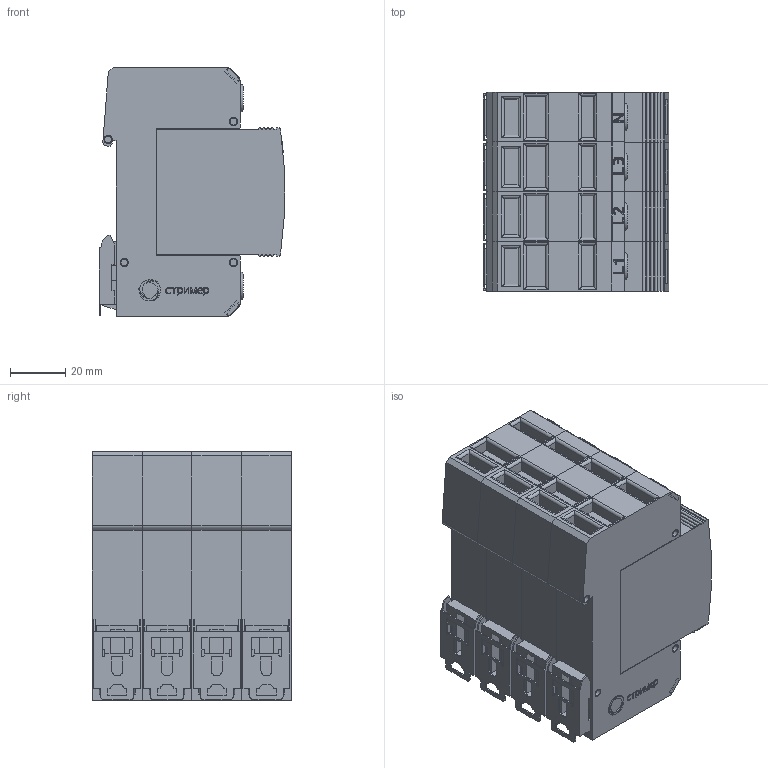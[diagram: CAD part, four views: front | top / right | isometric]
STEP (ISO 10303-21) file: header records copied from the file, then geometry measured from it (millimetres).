
FILE_DESCRIPTION(('TFLEX Exchange Step'),'2;1');
FILE_NAME('X2\041004400442\X0\.114_004_без контакта ДС.stp', '2022-08-30T13:57:43+03:00',('Ivan Berdigulov'),('Unknown organisation'),'TFLEX Exchange 2019.2','T-FLEX CAD','Unknown authorisation');
FILE_SCHEMA( ('AUTOMOTIVE_DESIGN { 1 0 10303 214 1 1 1 1 }') );
Length unit declared in the file: millimetre
Products named in the file (2): 0
Assembly tree (1 placements, depth 2):
  0
    0
Bounding box: 66.98 x 72.1 x 90.16 mm (x, y, z)
Volume: 344564.5 mm3; surface area: 96592.9 mm2
Topology: 123 solids, 123 shells, 1962 faces, 5006 edges, 3326 vertices
Faces by surface type: plane 1256, cylinder 398, bspline 300, torus 8
Full cylindrical faces by diameter (mm): 2.5 x48, 3 x48
Entity records: 85833 total; most frequent: CARTESIAN_POINT 40049, ORIENTED_EDGE 9804, DIRECTION 8226, EDGE_CURVE 4902, VERTEX_POINT 3326, VECTOR 3248, LINE 3248, AXIS2_PLACEMENT_3D 2489
